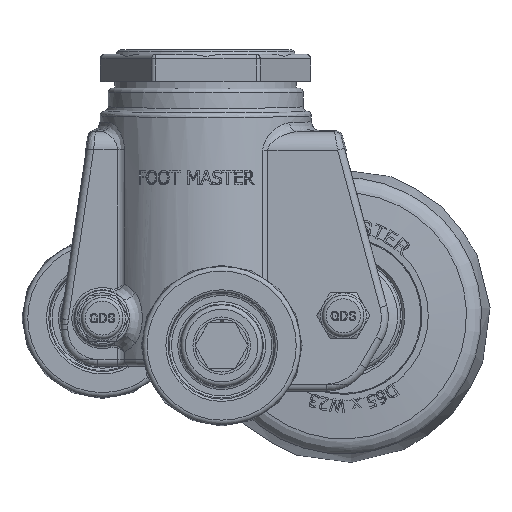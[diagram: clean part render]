
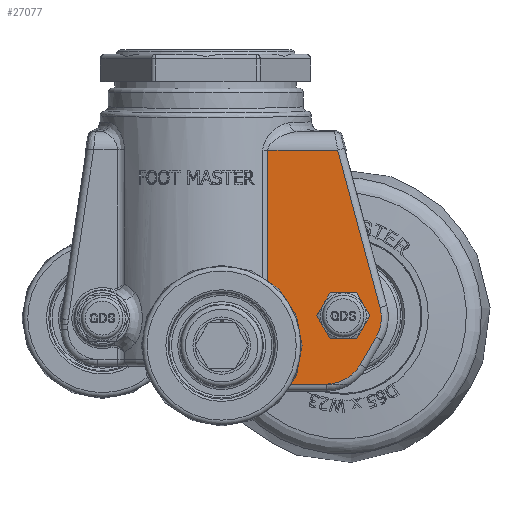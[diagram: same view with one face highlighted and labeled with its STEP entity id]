
A CAD part, front view. The second image highlights one B-rep face of the part: STEP entity #27077.
In plain terms, the highlighted planar face has unit normal (0, -1, 0).
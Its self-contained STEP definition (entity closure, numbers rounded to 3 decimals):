
#268=ELLIPSE('',#28380,8.503,8.5);
#1934=FACE_BOUND('',#5069,.T.);
#2354=PLANE('',#28705);
#3561=FACE_OUTER_BOUND('',#5068,.T.);
#5068=EDGE_LOOP('',(#20529,#20530,#20531,#20532,#20533,#20534,#20535));
#5069=EDGE_LOOP('',(#20536,#20537));
#6541=LINE('',#39515,#8373);
#6542=LINE('',#39520,#8374);
#6557=LINE('',#40027,#8389);
#6558=LINE('',#40047,#8390);
#6559=LINE('',#40078,#8391);
#8373=VECTOR('',#31214,10.);
#8374=VECTOR('',#31219,10.);
#8389=VECTOR('',#31392,10.);
#8390=VECTOR('',#31403,10.);
#8391=VECTOR('',#31412,10.);
#9893=CIRCLE('',#28706,8.5);
#9894=CIRCLE('',#28707,4.4);
#9895=CIRCLE('',#28708,4.4);
#11057=VERTEX_POINT('',#39305);
#11097=VERTEX_POINT('',#39513);
#11098=VERTEX_POINT('',#39517);
#11123=VERTEX_POINT('',#40025);
#11124=VERTEX_POINT('',#40043);
#11125=VERTEX_POINT('',#40045);
#11126=VERTEX_POINT('',#40073);
#11635=VERTEX_POINT('',#45725);
#11636=VERTEX_POINT('',#45726);
#14072=EDGE_CURVE('',#11057,#11097,#6541,.T.);
#14074=EDGE_CURVE('',#11098,#11057,#6542,.T.);
#14150=EDGE_CURVE('',#11123,#11098,#6557,.T.);
#14155=EDGE_CURVE('',#11125,#11124,#6558,.T.);
#14157=EDGE_CURVE('',#11126,#11125,#268,.T.);
#14159=EDGE_CURVE('',#11097,#11126,#6559,.T.);
#14921=EDGE_CURVE('',#11124,#11123,#9893,.T.);
#14922=EDGE_CURVE('',#11635,#11636,#9894,.T.);
#14923=EDGE_CURVE('',#11636,#11635,#9895,.T.);
#20529=ORIENTED_EDGE('',*,*,#14150,.F.);
#20530=ORIENTED_EDGE('',*,*,#14921,.F.);
#20531=ORIENTED_EDGE('',*,*,#14155,.F.);
#20532=ORIENTED_EDGE('',*,*,#14157,.F.);
#20533=ORIENTED_EDGE('',*,*,#14159,.F.);
#20534=ORIENTED_EDGE('',*,*,#14072,.F.);
#20535=ORIENTED_EDGE('',*,*,#14074,.F.);
#20536=ORIENTED_EDGE('',*,*,#14922,.T.);
#20537=ORIENTED_EDGE('',*,*,#14923,.T.);
#27077=ADVANCED_FACE('',(#3561,#1934),#2354,.T.);
#28380=AXIS2_PLACEMENT_3D('',#40075,#31406,#31407);
#28705=AXIS2_PLACEMENT_3D('',#45723,#32414,#32415);
#28706=AXIS2_PLACEMENT_3D('',#45724,#32416,#32417);
#28707=AXIS2_PLACEMENT_3D('',#45727,#32418,#32419);
#28708=AXIS2_PLACEMENT_3D('',#45728,#32420,#32421);
#31214=DIRECTION('',(1.,0.,0.));
#31219=DIRECTION('',(0.,0.,1.));
#31392=DIRECTION('',(-1.,0.,0.));
#31403=DIRECTION('',(-0.5,0.,-0.866));
#31406=DIRECTION('center_axis',(0.,1.,0.));
#31407=DIRECTION('ref_axis',(0.5,0.,0.866));
#31412=DIRECTION('',(0.26,0.,-0.966));
#32414=DIRECTION('center_axis',(0.,-1.,0.));
#32415=DIRECTION('ref_axis',(1.,0.,0.));
#32416=DIRECTION('center_axis',(0.,1.,0.));
#32417=DIRECTION('ref_axis',(0.5,0.,-0.866));
#32418=DIRECTION('center_axis',(0.,1.,0.));
#32419=DIRECTION('ref_axis',(0.,0.,1.));
#32420=DIRECTION('center_axis',(0.,1.,0.));
#32421=DIRECTION('ref_axis',(0.,0.,1.));
#39305=CARTESIAN_POINT('',(13.565,-19.,-13.551));
#39513=CARTESIAN_POINT('',(28.778,-19.,-13.551));
#39515=CARTESIAN_POINT('',(21.481,-19.,-13.551));
#39517=CARTESIAN_POINT('',(13.565,-19.,-64.5));
#39520=CARTESIAN_POINT('',(13.565,-19.,-5.));
#40025=CARTESIAN_POINT('',(26.305,-19.,-64.5));
#40027=CARTESIAN_POINT('',(15.,-19.,-64.5));
#40043=CARTESIAN_POINT('',(33.666,-19.,-60.25));
#40045=CARTESIAN_POINT('',(37.144,-19.,-54.226));
#40047=CARTESIAN_POINT('',(37.361,-19.,-53.85));
#40073=CARTESIAN_POINT('',(37.991,-19.,-47.762));
#40075=CARTESIAN_POINT('Origin',(29.783,-19.,-49.976));
#40078=CARTESIAN_POINT('',(32.834,-19.,-28.614));
#45723=CARTESIAN_POINT('Origin',(30.,-19.,-49.6));
#45724=CARTESIAN_POINT('Origin',(26.305,-19.,-56.));
#45725=CARTESIAN_POINT('',(30.,-19.,-45.2));
#45726=CARTESIAN_POINT('',(30.,-19.,-54.));
#45727=CARTESIAN_POINT('Origin',(30.,-19.,-49.6));
#45728=CARTESIAN_POINT('Origin',(30.,-19.,-49.6));
